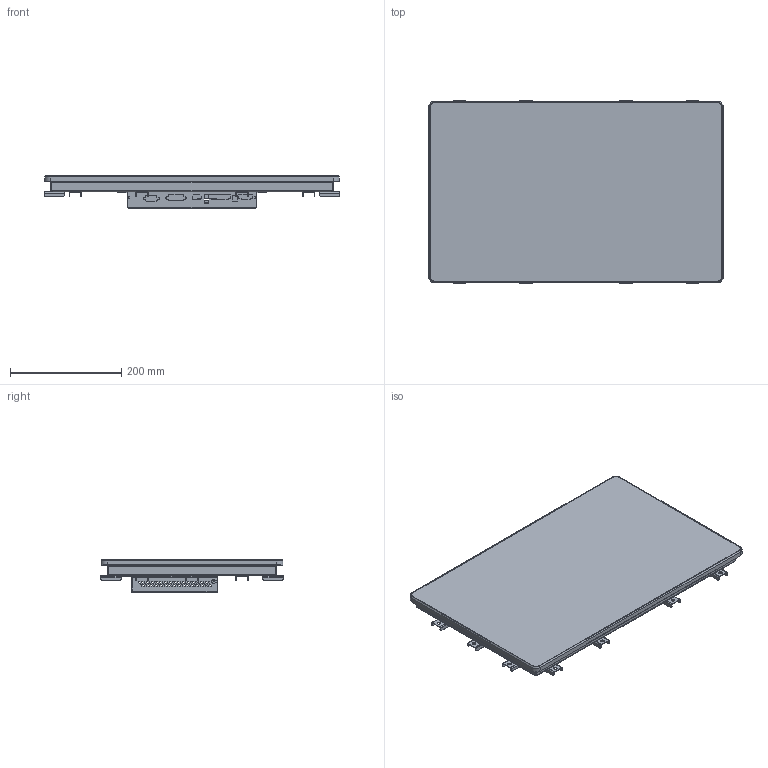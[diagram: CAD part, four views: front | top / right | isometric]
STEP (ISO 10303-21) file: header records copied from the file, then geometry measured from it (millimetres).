
FILE_DESCRIPTION(('STEP AP242'), '1');
FILE_NAME('Ñáîðêà_SDA22W', '', ('UNSPECIFIED'), ('UNSPECIFIED'), 'C3D Converter', 'C3D Toolkit', '');
FILE_SCHEMA(('AP242_MANAGED_MODEL_BASED_3D_ENGINEERING_MIM_LF { 1 0 10303 442 1 1 4 }'));
Length unit declared in the file: millimetre
Bounding box: 531.7 x 328.7 x 59.5 mm (x, y, z)
Volume: 3204734.2 mm3; surface area: 937203.3 mm2
Topology: 1 solids, 1 shells, 3897 faces, 10581 edges, 6906 vertices
Faces by surface type: plane 1955, cylinder 980, extrusion 894, bspline 40, cone 28
Full cylindrical faces by diameter (mm): 1.6 x14, 2 x18, 2.459 x28, 3 x2, 3.5 x28, 4 x6, 4.2 x14, 4.22 x16, 4.35 x14, 6 x14, 6.1 x4
Entity records: 157591 total; most frequent: CARTESIAN_POINT 29381, ORIENTED_EDGE 20846, DIRECTION 17317, EDGE_CURVE 10423, VECTOR 7509, VERTEX_POINT 6906, LINE 6615, EDGE_LOOP 4989
